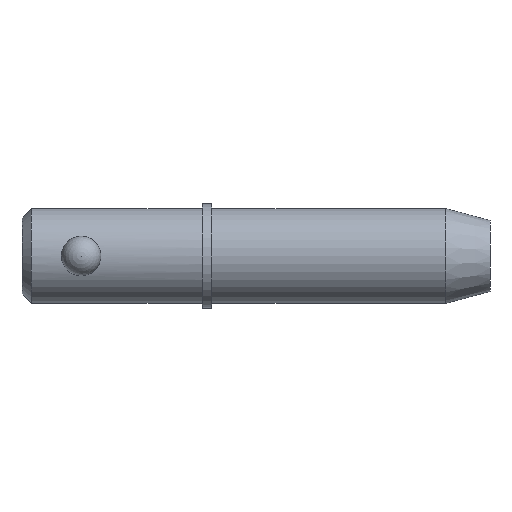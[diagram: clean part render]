
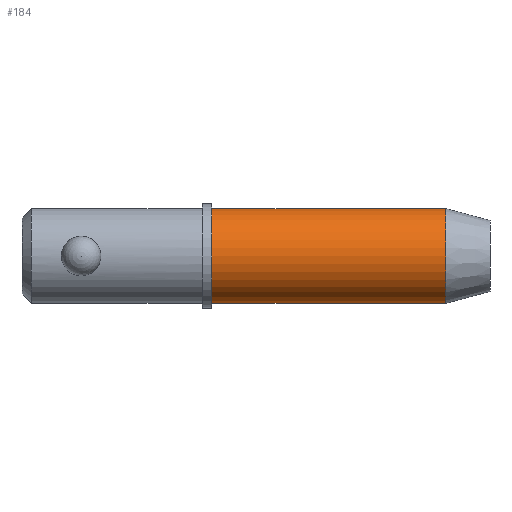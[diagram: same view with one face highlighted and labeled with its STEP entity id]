
A CAD part, front view. The second image highlights one B-rep face of the part: STEP entity #184.
In plain terms, the highlighted cylindrical face has radius 4.765 mm (diameter 9.53 mm), a partial arc.
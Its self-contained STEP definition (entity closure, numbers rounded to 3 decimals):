
#48 = DIRECTION ( 'NONE',  ( 1., 0., 0. ) ) ;
#83 = VERTEX_POINT ( 'NONE', #1031 ) ;
#105 = CARTESIAN_POINT ( 'NONE',  ( 0., 0., 0. ) ) ;
#120 = CARTESIAN_POINT ( 'NONE',  ( 19.05, 0., 4.765 ) ) ;
#132 = DIRECTION ( 'NONE',  ( 1., 0., 0. ) ) ;
#139 = CIRCLE ( 'NONE', #158, 4.765 ) ;
#158 = AXIS2_PLACEMENT_3D ( 'NONE', #281, #599, #208 ) ;
#184 = ADVANCED_FACE ( 'NONE', ( #328 ), #659, .T. ) ;
#194 = DIRECTION ( 'NONE',  ( 0., 0., -1. ) ) ;
#207 = AXIS2_PLACEMENT_3D ( 'NONE', #105, #819, #194 ) ;
#208 = DIRECTION ( 'NONE',  ( 0., 0., -1. ) ) ;
#243 = EDGE_CURVE ( 'NONE', #774, #324, #438, .T. ) ;
#262 = DIRECTION ( 'NONE',  ( 1., 0., 0. ) ) ;
#274 = CARTESIAN_POINT ( 'NONE',  ( 42.544, 0., -4.765 ) ) ;
#281 = CARTESIAN_POINT ( 'NONE',  ( 19.05, 0., 0. ) ) ;
#292 = ORIENTED_EDGE ( 'NONE', *, *, #243, .F. ) ;
#305 = VERTEX_POINT ( 'NONE', #120 ) ;
#316 = EDGE_CURVE ( 'NONE', #83, #324, #1000, .T. ) ;
#324 = VERTEX_POINT ( 'NONE', #274 ) ;
#328 = FACE_OUTER_BOUND ( 'NONE', #889, .T. ) ;
#354 = CARTESIAN_POINT ( 'NONE',  ( 0., 0., 4.765 ) ) ;
#371 = EDGE_CURVE ( 'NONE', #305, #774, #427, .T. ) ;
#404 = EDGE_CURVE ( 'NONE', #305, #83, #139, .T. ) ;
#427 = LINE ( 'NONE', #354, #925 ) ;
#438 = CIRCLE ( 'NONE', #786, 4.765 ) ;
#459 = ORIENTED_EDGE ( 'NONE', *, *, #404, .T. ) ;
#475 = ORIENTED_EDGE ( 'NONE', *, *, #316, .T. ) ;
#497 = DIRECTION ( 'NONE',  ( 0., 0., -1. ) ) ;
#599 = DIRECTION ( 'NONE',  ( 1., 0., 0. ) ) ;
#604 = VECTOR ( 'NONE', #132, 1000. ) ;
#659 = CYLINDRICAL_SURFACE ( 'NONE', #207, 4.765 ) ;
#735 = CARTESIAN_POINT ( 'NONE',  ( 42.544, 0., 4.765 ) ) ;
#741 = CARTESIAN_POINT ( 'NONE',  ( 42.544, 0., 0. ) ) ;
#774 = VERTEX_POINT ( 'NONE', #735 ) ;
#786 = AXIS2_PLACEMENT_3D ( 'NONE', #741, #262, #497 ) ;
#819 = DIRECTION ( 'NONE',  ( 1., 0., 0. ) ) ;
#889 = EDGE_LOOP ( 'NONE', ( #1016, #459, #475, #292 ) ) ;
#925 = VECTOR ( 'NONE', #48, 1000. ) ;
#995 = CARTESIAN_POINT ( 'NONE',  ( 0., 0., -4.765 ) ) ;
#1000 = LINE ( 'NONE', #995, #604 ) ;
#1016 = ORIENTED_EDGE ( 'NONE', *, *, #371, .F. ) ;
#1031 = CARTESIAN_POINT ( 'NONE',  ( 19.05, 0., -4.765 ) ) ;
